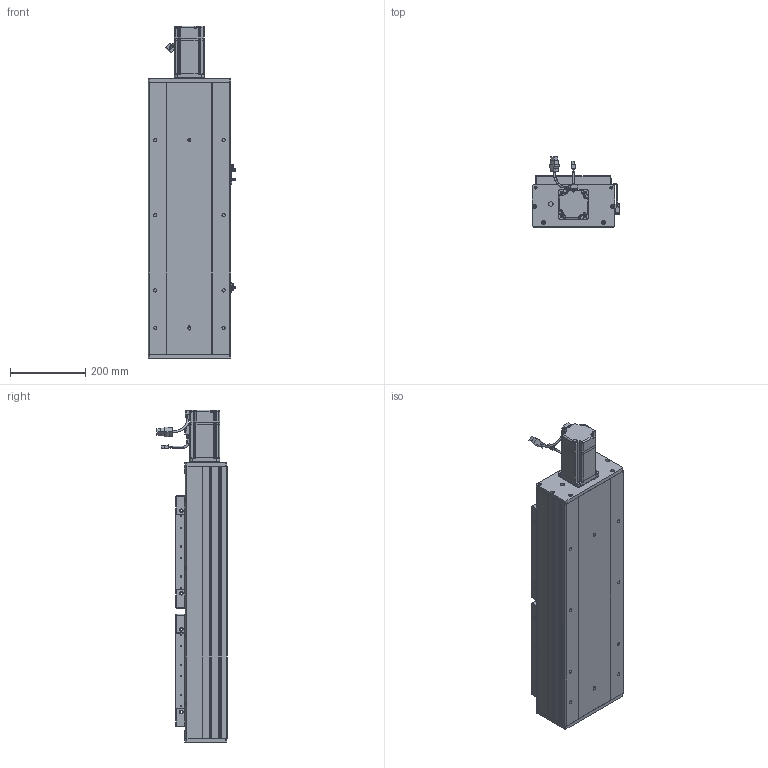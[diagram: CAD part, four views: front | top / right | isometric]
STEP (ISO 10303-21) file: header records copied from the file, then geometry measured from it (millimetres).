
FILE_DESCRIPTION (( 'STEP AP203' ), '1' );
FILE_NAME ('RY220F-L2525-300-MK.SLDASM_默认.step', '2022-07-04T01:02:59', ( '' ), ( '' ), 'SwSTEP 2.0', 'SolidWorks 2016', '' );
FILE_SCHEMA (( 'CONFIG_CONTROL_DESIGN' ));
Length unit declared in the file: millimetre
Products named in the file (15): RY220F-祥凄詩湍-MK-300; RY220F-詩湍揤踡輸; RY220F-672覜茼んえ; 怢湛750W_ECMA-CX0807ES; RY220电机支撑座FK20（PCD90M6）; 滅袉蝶18-24; RY220F-奻裔啣-300; RY220F臏賑釱25-32佪裝; RY220Fヶ裔啣; 覜茼ん672; 滅袉蝶18-20; RY220F-L2525-300-MK.SLDASM_默认; RY220F-滅鳥奻裔; RY220F綴裔啣; RY220F菁釱MK-300
Assembly tree (23 placements, depth 2):
  RY220F-L2525-300-MK.SLDASM_默认
    RY220F菁釱MK-300
    RY220电机支撑座FK20（PCD90M6）
    RY220F-奻裔啣-300  x2
    怢湛750W_ECMA-CX0807ES
    RY220F臏賑釱25-32佪裝  x2
    RY220F-滅鳥奻裔  x2
    滅袉蝶18-20
    滅袉蝶18-24  x3
    RY220Fヶ裔啣
    RY220F綴裔啣
    RY220F-祥凄詩湍-MK-300
    RY220F-詩湍揤踡輸  x2
    覜茼ん672  x3
    RY220F-672覜茼んえ  x2
Bounding box: 233.7 x 187.27 x 884.3 mm (x, y, z)
Volume: 10222637.8 mm3; surface area: 2395209.1 mm2
Topology: 24 solids, 24 shells, 2650 faces, 7278 edges, 4532 vertices
Faces by surface type: cylinder 1186, plane 1030, cone 371, bspline 37, sphere 16, torus 10
Entity records: 65890 total; most frequent: CARTESIAN_POINT 17984, ORIENTED_EDGE 9746, DIRECTION 9366, EDGE_CURVE 4873, AXIS2_PLACEMENT_3D 3307, VERTEX_POINT 3172, VECTOR 2752, LINE 2752
